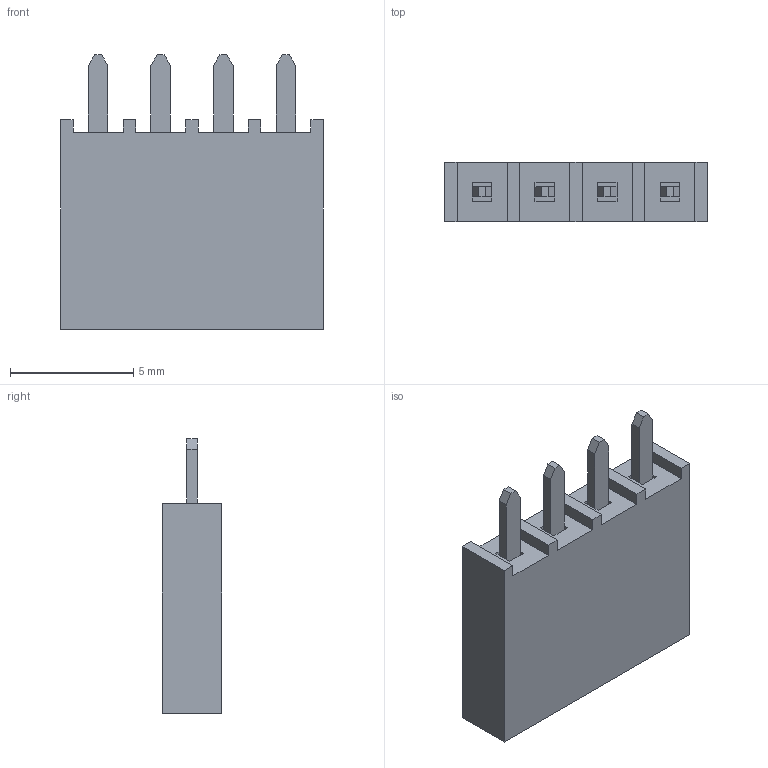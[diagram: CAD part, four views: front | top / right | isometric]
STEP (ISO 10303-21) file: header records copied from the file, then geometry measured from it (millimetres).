
FILE_DESCRIPTION(('FreeCAD Model'),'2;1');
FILE_NAME('C:\Users\cr185092\Documents\KiCAD_Projects\VORON_V2.0_Expander_option2\VORON_V2.0.pretty\3D_Models\PIN_SOCKET_BOTTON_1X4.step','2017-11-19T10:28:51',('kicad StepUp'),( 'ksu MCAD'),'Open CASCADE STEP processor 6.8','FreeCAD','Unknown');
FILE_SCHEMA(('AUTOMOTIVE_DESIGN_CC2 { 1 2 10303 214 -1 1 5 4 }'));
Length unit declared in the file: millimetre
Products named in the file (1): PIN_SOCKET_BOTTON_1X4
Bounding box: 10.67 x 2.41 x 11.15 mm (x, y, z)
Volume: 193.9 mm3; surface area: 404.6 mm2
Topology: 1 solids, 1 shells, 102 faces, 260 edges, 168 vertices
Faces by surface type: plane 102
Entity records: 3723 total; most frequent: CARTESIAN_POINT 531, ORIENTED_EDGE 520, DIRECTION 466, EDGE_CURVE 260, LINE 260, VECTOR 260, VERTEX_POINT 168, FACE_BOUND 110
